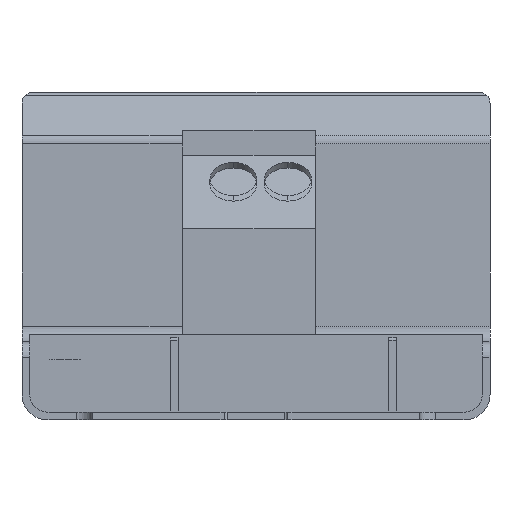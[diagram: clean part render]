
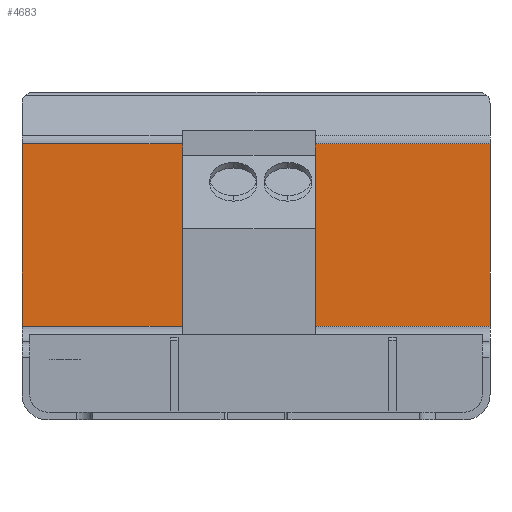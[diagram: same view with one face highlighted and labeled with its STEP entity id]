
A CAD part, front view. The second image highlights one B-rep face of the part: STEP entity #4683.
In plain terms, the highlighted planar face has unit normal (0, -1, 0).
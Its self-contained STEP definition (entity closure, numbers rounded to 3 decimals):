
#530=DIRECTION('',(0.,0.,-1.));
#531=VECTOR('',#530,11.71);
#532=CARTESIAN_POINT('',(14.071,8.396,2.522));
#533=LINE('',#532,#531);
#1089=DIRECTION('',(1.,0.,0.));
#1090=VECTOR('',#1089,30.);
#1091=CARTESIAN_POINT('',(14.071,8.396,-9.188));
#1092=LINE('',#1091,#1090);
#1533=DIRECTION('',(0.,0.,1.));
#1534=VECTOR('',#1533,11.71);
#1535=CARTESIAN_POINT('',(44.071,8.396,-9.188));
#1536=LINE('',#1535,#1534);
#1694=DIRECTION('',(-1.,0.,0.));
#1695=VECTOR('',#1694,30.);
#1696=CARTESIAN_POINT('',(44.071,8.396,2.522));
#1697=LINE('',#1696,#1695);
#3171=CARTESIAN_POINT('',(14.071,8.396,-9.188));
#3172=VERTEX_POINT('',#3171);
#3173=CARTESIAN_POINT('',(44.071,8.396,-9.188));
#3174=VERTEX_POINT('',#3173);
#3261=CARTESIAN_POINT('',(44.071,8.396,2.522));
#3262=VERTEX_POINT('',#3261);
#3271=CARTESIAN_POINT('',(14.071,8.396,2.522));
#3272=VERTEX_POINT('',#3271);
#4672=CARTESIAN_POINT('',(14.071,8.396,-9.738));
#4673=DIRECTION('',(0.,-1.,0.));
#4674=DIRECTION('',(0.,0.,1.));
#4675=AXIS2_PLACEMENT_3D('',#4672,#4673,#4674);
#4676=PLANE('',#4675);
#4677=ORIENTED_EDGE('',*,*,#4217,.F.);
#4678=ORIENTED_EDGE('',*,*,#3929,.F.);
#4679=ORIENTED_EDGE('',*,*,#4664,.F.);
#4680=ORIENTED_EDGE('',*,*,#4517,.F.);
#4681=EDGE_LOOP('',(#4677,#4678,#4679,#4680));
#4682=FACE_OUTER_BOUND('',#4681,.F.);
#3929=EDGE_CURVE('',#3272,#3172,#533,.T.);
#4217=EDGE_CURVE('',#3172,#3174,#1092,.T.);
#4517=EDGE_CURVE('',#3174,#3262,#1536,.T.);
#4664=EDGE_CURVE('',#3262,#3272,#1697,.T.);
#4683=ADVANCED_FACE('',(#4682),#4676,.T.);
